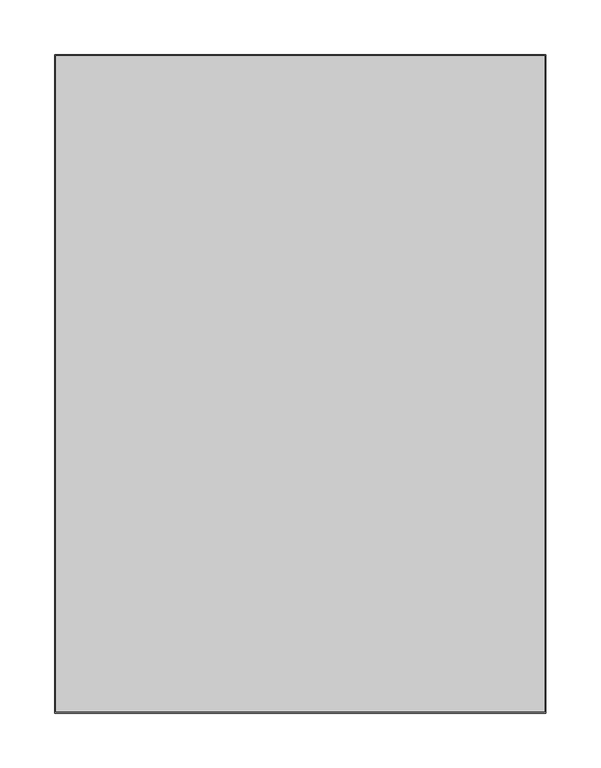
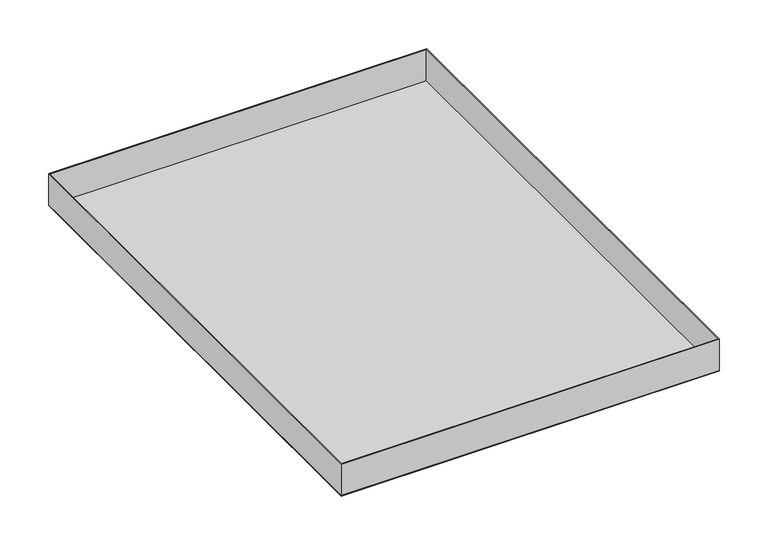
"""IFC4 building model written with IfcOpenShell, lengths in millimetres: proxy geometry, durlum_S5.7KS-BR_panel : durlum_S5.7KS-BR_panel_wall_length_cut."""

from ifc_helpers import new_model, si_unit, frame, origin, origin_with_axes, place, context, project, spatial, polyline, outline, extrude, source, transform, mapped, element, save


def generic_models_87ce61aa(model_context):
    return source(origin(), model_context, "Body", "SweptSolid", [
        extrude(outline(polyline([(223.5, 299.75), (223.5, -299.75), (-223.5, -299.75), (-223.5, 299.75), (223.5, 299.75)]), holes=[polyline([(222.5, 298.75), (-222.5, 298.75), (-222.5, -298.75), (222.5, -298.75), (222.5, 298.75)])]), frame((0.0, 0.0, 1.0), z_axis=(0.0, 0.0, 1.0), x_axis=(1.0, 0.0, 0.0)), (0.0, 0.0, 1.0), 39.0),
        extrude(outline(polyline([(223.5, 299.75), (223.5, -299.75), (-223.5, -299.75), (-223.5, 299.75), (223.5, 299.75)])), origin_with_axes(), (0.0, 0.0, 1.0), 1.0),
    ])


if __name__ == "__main__":
    model = new_model("IFC4")
    model_context = context("Model", 3, world=origin())
    ifc_project = project(units=[si_unit("LENGTHUNIT", "METRE", prefix="MILLI")], contexts=[model_context])
    site = spatial("IfcSite", under=ifc_project)
    building = spatial("IfcBuilding", under=site)
    placement = place(None, origin())
    generic_models_shape = generic_models_87ce61aa(model_context)
    element("IfcBuildingElementProxy", 1, Name="durlum_S5.7KS-BR_panel : durlum_S5.7KS-BR_panel_wall_length_cut", ObjectType="durlum_S5.7KS-BR_panel : durlum_S5.7KS-BR_panel_wall_length_cut", at=placement, inside=building, context=model_context, shape_type="MappedRepresentation", body=[
        mapped(generic_models_shape, transform((0.0, 0.0, 0.0), x_axis=(1.0, 0.0, 0.0), y_axis=(0.0, 1.0, 0.0), z_axis=(0.0, 0.0, 1.0))),
    ])
    save(model, "model.ifc")
